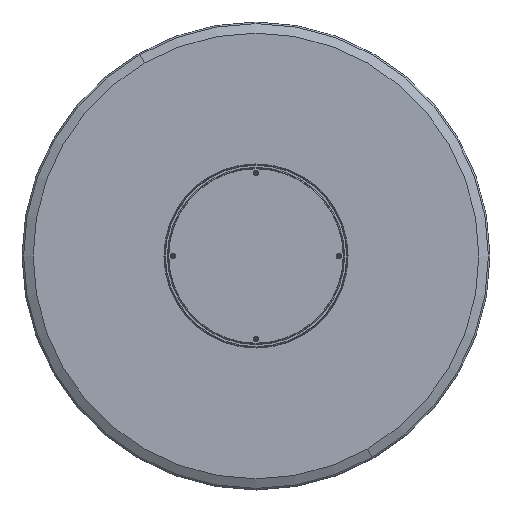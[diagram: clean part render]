
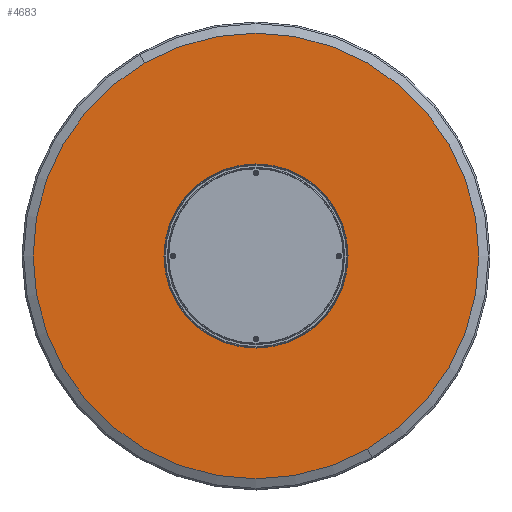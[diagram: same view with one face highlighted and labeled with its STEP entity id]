
A CAD part, front view. The second image highlights one B-rep face of the part: STEP entity #4683.
In plain terms, the highlighted planar face has unit normal (0, -1, 0).
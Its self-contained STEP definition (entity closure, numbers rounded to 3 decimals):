
#21 = ORIENTED_EDGE ( 'NONE', *, *, #940, .T. ) ;
#27 = FACE_BOUND ( 'NONE', #2093, .T. ) ;
#118 = EDGE_CURVE ( 'NONE', #4994, #5999, #1940, .T. ) ;
#153 = CARTESIAN_POINT ( 'NONE',  ( 95., 0., -51.448 ) ) ;
#188 = AXIS2_PLACEMENT_3D ( 'NONE', #4081, #4251, #1348 ) ;
#231 = DIRECTION ( 'NONE',  ( 0., 1., 0. ) ) ;
#315 = ORIENTED_EDGE ( 'NONE', *, *, #4603, .F. ) ;
#318 = DIRECTION ( 'NONE',  ( 0., 0., -1. ) ) ;
#359 = DIRECTION ( 'NONE',  ( 0., 0., 1. ) ) ;
#383 = FACE_BOUND ( 'NONE', #4427, .T. ) ;
#422 = CARTESIAN_POINT ( 'NONE',  ( 95., 0., -54.848 ) ) ;
#487 = DIRECTION ( 'NONE',  ( 0., 1., 0. ) ) ;
#508 = EDGE_CURVE ( 'NONE', #2598, #4156, #2615, .T. ) ;
#513 = AXIS2_PLACEMENT_3D ( 'NONE', #2575, #231, #1197 ) ;
#857 = VERTEX_POINT ( 'NONE', #2252 ) ;
#940 = EDGE_CURVE ( 'NONE', #4954, #1039, #2422, .T. ) ;
#952 = CARTESIAN_POINT ( 'NONE',  ( -95., 0., -54.848 ) ) ;
#1039 = VERTEX_POINT ( 'NONE', #4821 ) ;
#1104 = EDGE_CURVE ( 'NONE', #4156, #2598, #2058, .T. ) ;
#1113 = CIRCLE ( 'NONE', #513, 484.323 ) ;
#1155 = CARTESIAN_POINT ( 'NONE',  ( 0., 0., 0. ) ) ;
#1197 = DIRECTION ( 'NONE',  ( 0., 0., 1. ) ) ;
#1249 = CARTESIAN_POINT ( 'NONE',  ( 0., 0., 113.097 ) ) ;
#1283 = EDGE_CURVE ( 'NONE', #857, #1905, #1670, .T. ) ;
#1348 = DIRECTION ( 'NONE',  ( 0., 0., 1. ) ) ;
#1445 = AXIS2_PLACEMENT_3D ( 'NONE', #5239, #487, #4731 ) ;
#1570 = CARTESIAN_POINT ( 'NONE',  ( 0., 0., 484.323 ) ) ;
#1627 = CARTESIAN_POINT ( 'NONE',  ( 0., 0., -484.323 ) ) ;
#1647 = ORIENTED_EDGE ( 'NONE', *, *, #1283, .T. ) ;
#1648 = ORIENTED_EDGE ( 'NONE', *, *, #508, .T. ) ;
#1670 = CIRCLE ( 'NONE', #5485, 3.4 ) ;
#1726 = DIRECTION ( 'NONE',  ( 0., -1., 0. ) ) ;
#1875 = CIRCLE ( 'NONE', #188, 3.4 ) ;
#1905 = VERTEX_POINT ( 'NONE', #1249 ) ;
#1940 = CIRCLE ( 'NONE', #2712, 484.323 ) ;
#2047 = AXIS2_PLACEMENT_3D ( 'NONE', #422, #2672, #359 ) ;
#2058 = CIRCLE ( 'NONE', #2722, 3.4 ) ;
#2089 = DIRECTION ( 'NONE',  ( 0., 0., 1. ) ) ;
#2092 = EDGE_LOOP ( 'NONE', ( #315, #3004 ) ) ;
#2093 = EDGE_LOOP ( 'NONE', ( #3436, #1647 ) ) ;
#2134 = CARTESIAN_POINT ( 'NONE',  ( -95., 0., -51.448 ) ) ;
#2209 = FACE_BOUND ( 'NONE', #5534, .T. ) ;
#2252 = CARTESIAN_POINT ( 'NONE',  ( 0., 0., 106.297 ) ) ;
#2298 = CARTESIAN_POINT ( 'NONE',  ( -95., 0., -58.248 ) ) ;
#2375 = FACE_OUTER_BOUND ( 'NONE', #2092, .T. ) ;
#2422 = CIRCLE ( 'NONE', #2047, 3.4 ) ;
#2489 = EDGE_CURVE ( 'NONE', #1039, #4954, #1875, .T. ) ;
#2575 = CARTESIAN_POINT ( 'NONE',  ( 0., 0., 0. ) ) ;
#2598 = VERTEX_POINT ( 'NONE', #2298 ) ;
#2615 = CIRCLE ( 'NONE', #1445, 3.4 ) ;
#2672 = DIRECTION ( 'NONE',  ( 0., 1., 0. ) ) ;
#2689 = DIRECTION ( 'NONE',  ( 0., 0., 1. ) ) ;
#2712 = AXIS2_PLACEMENT_3D ( 'NONE', #1155, #3144, #2089 ) ;
#2722 = AXIS2_PLACEMENT_3D ( 'NONE', #952, #3863, #5263 ) ;
#2735 = EDGE_CURVE ( 'NONE', #1905, #857, #5108, .T. ) ;
#3004 = ORIENTED_EDGE ( 'NONE', *, *, #118, .F. ) ;
#3144 = DIRECTION ( 'NONE',  ( 0., 1., 0. ) ) ;
#3436 = ORIENTED_EDGE ( 'NONE', *, *, #2735, .T. ) ;
#3579 = DIRECTION ( 'NONE',  ( 0., 1., 0. ) ) ;
#3863 = DIRECTION ( 'NONE',  ( 0., 1., 0. ) ) ;
#3916 = DIRECTION ( 'NONE',  ( 0., 0., 1. ) ) ;
#4038 = CARTESIAN_POINT ( 'NONE',  ( 0., 0., 109.697 ) ) ;
#4081 = CARTESIAN_POINT ( 'NONE',  ( 95., 0., -54.848 ) ) ;
#4156 = VERTEX_POINT ( 'NONE', #2134 ) ;
#4251 = DIRECTION ( 'NONE',  ( 0., 1., 0. ) ) ;
#4413 = DIRECTION ( 'NONE',  ( 0., 1., 0. ) ) ;
#4427 = EDGE_LOOP ( 'NONE', ( #21, #5768 ) ) ;
#4530 = PLANE ( 'NONE',  #5356 ) ;
#4561 = CARTESIAN_POINT ( 'NONE',  ( 0., 0., 0. ) ) ;
#4603 = EDGE_CURVE ( 'NONE', #5999, #4994, #1113, .T. ) ;
#4683 = ADVANCED_FACE ( 'NONE', ( #2209, #383, #27, #2375 ), #4530, .T. ) ;
#4731 = DIRECTION ( 'NONE',  ( 0., 0., 1. ) ) ;
#4778 = CARTESIAN_POINT ( 'NONE',  ( 0., 0., 109.697 ) ) ;
#4821 = CARTESIAN_POINT ( 'NONE',  ( 95., 0., -58.248 ) ) ;
#4881 = ORIENTED_EDGE ( 'NONE', *, *, #1104, .T. ) ;
#4954 = VERTEX_POINT ( 'NONE', #153 ) ;
#4994 = VERTEX_POINT ( 'NONE', #1627 ) ;
#5108 = CIRCLE ( 'NONE', #5504, 3.4 ) ;
#5239 = CARTESIAN_POINT ( 'NONE',  ( -95., 0., -54.848 ) ) ;
#5263 = DIRECTION ( 'NONE',  ( 0., 0., 1. ) ) ;
#5356 = AXIS2_PLACEMENT_3D ( 'NONE', #4561, #1726, #318 ) ;
#5485 = AXIS2_PLACEMENT_3D ( 'NONE', #4038, #3579, #2689 ) ;
#5504 = AXIS2_PLACEMENT_3D ( 'NONE', #4778, #4413, #3916 ) ;
#5534 = EDGE_LOOP ( 'NONE', ( #4881, #1648 ) ) ;
#5768 = ORIENTED_EDGE ( 'NONE', *, *, #2489, .T. ) ;
#5999 = VERTEX_POINT ( 'NONE', #1570 ) ;
